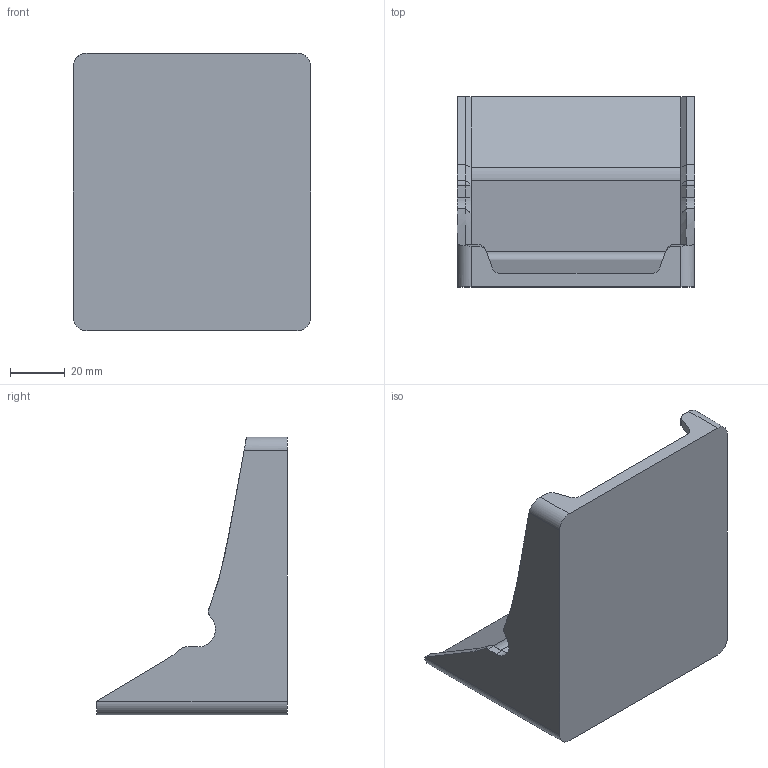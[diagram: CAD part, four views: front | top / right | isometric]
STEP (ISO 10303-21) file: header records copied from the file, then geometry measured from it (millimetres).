
FILE_DESCRIPTION(/* description */ (''),/* implementation_level */ '2;1');
FILE_NAME(/* name */ 'Top.step',/* time_stamp */ '2025-08-10T15:21:34+08:00',/* author */ (''),/* organization */ (''),/* preprocessor_version */ 'ST-DEVELOPER v20.1',/* originating_system */ 'Autodesk Translation Framework v14.10.0.0',/* authorisation */ '');
FILE_SCHEMA (('AUTOMOTIVE_DESIGN { 1 0 10303 214 3 1 1 }'));
Length unit declared in the file: millimetre
Products named in the file (1): Sticky note holder with stencils
Bounding box: 87 x 70 x 102 mm (x, y, z)
Volume: 160445.1 mm3; surface area: 37073 mm2
Topology: 1 solids, 1 shells, 67 faces, 175 edges, 110 vertices
Faces by surface type: bspline 26, plane 26, cylinder 11, cone 4
Entity records: 2810 total; most frequent: CARTESIAN_POINT 1319, ORIENTED_EDGE 350, DIRECTION 219, EDGE_CURVE 175, VERTEX_POINT 110, LINE 87, VECTOR 87, FACE_OUTER_BOUND 67
